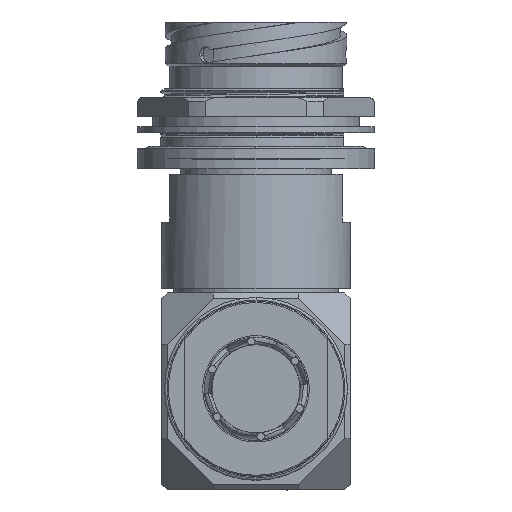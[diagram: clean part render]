
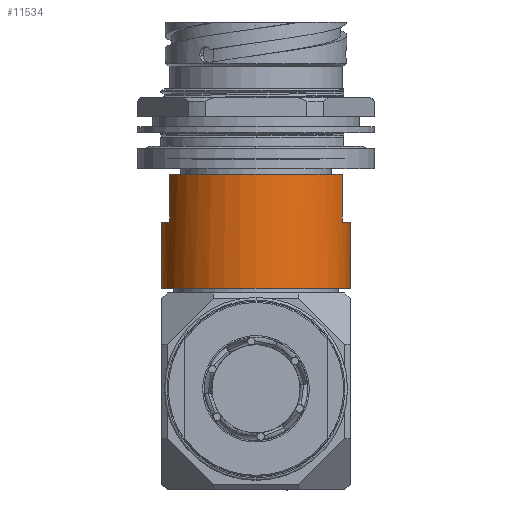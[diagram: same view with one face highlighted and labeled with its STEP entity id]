
A CAD part, front view. The second image highlights one B-rep face of the part: STEP entity #11534.
In plain terms, the highlighted cylindrical face has radius 18.86 mm (diameter 37.719 mm), a partial arc.
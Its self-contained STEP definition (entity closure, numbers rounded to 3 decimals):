
#1664 = VERTEX_POINT ( 'NONE', #127361 ) ;
#4003 = VERTEX_POINT ( 'NONE', #32517 ) ;
#4367 = VERTEX_POINT ( 'NONE', #120988 ) ;
#7084 = EDGE_CURVE ( 'NONE', #27457, #4367, #78304, .T. ) ;
#10281 = DIRECTION ( 'NONE',  ( 0., 0., -1. ) ) ;
#11534 = ADVANCED_FACE ( 'NONE', ( #73988 ), #62568, .T. ) ;
#13145 = VECTOR ( 'NONE', #42292, 1000. ) ;
#14009 = EDGE_CURVE ( 'NONE', #59226, #52883, #58438, .T. ) ;
#15745 = CIRCLE ( 'NONE', #80105, 18.86 ) ;
#23118 = EDGE_CURVE ( 'NONE', #59226, #128904, #29748, .T. ) ;
#24078 = ORIENTED_EDGE ( 'NONE', *, *, #23118, .F. ) ;
#27070 = AXIS2_PLACEMENT_3D ( 'NONE', #30951, #102858, #114258 ) ;
#27457 = VERTEX_POINT ( 'NONE', #49457 ) ;
#28289 = CARTESIAN_POINT ( 'NONE',  ( -17.208, -7.717, -30.328 ) ) ;
#29531 = LINE ( 'NONE', #128814, #70703 ) ;
#29748 = LINE ( 'NONE', #94026, #13145 ) ;
#30951 = CARTESIAN_POINT ( 'NONE',  ( 0., 0., -39.853 ) ) ;
#32517 = CARTESIAN_POINT ( 'NONE',  ( -18.86, 0., -39.853 ) ) ;
#35692 = DIRECTION ( 'NONE',  ( 0., 0., 1. ) ) ;
#37186 = ORIENTED_EDGE ( 'NONE', *, *, #14009, .T. ) ;
#37401 = EDGE_CURVE ( 'NONE', #128904, #27457, #15745, .T. ) ;
#39914 = CIRCLE ( 'NONE', #27070, 18.86 ) ;
#42191 = CARTESIAN_POINT ( 'NONE',  ( -17.209, -7.717, -39.853 ) ) ;
#42292 = DIRECTION ( 'NONE',  ( 0., 0., -1. ) ) ;
#47208 = ORIENTED_EDGE ( 'NONE', *, *, #71694, .F. ) ;
#49457 = CARTESIAN_POINT ( 'NONE',  ( 18.86, 0., -39.853 ) ) ;
#52870 = DIRECTION ( 'NONE',  ( 1., 0., 0. ) ) ;
#52883 = VERTEX_POINT ( 'NONE', #97867 ) ;
#55576 = DIRECTION ( 'NONE',  ( 0., 0., -1. ) ) ;
#56021 = ORIENTED_EDGE ( 'NONE', *, *, #63123, .F. ) ;
#58438 = CIRCLE ( 'NONE', #114246, 18.86 ) ;
#58790 = DIRECTION ( 'NONE',  ( 0., 0., -1. ) ) ;
#59226 = VERTEX_POINT ( 'NONE', #65825 ) ;
#60348 = CARTESIAN_POINT ( 'NONE',  ( 0., 0., -53.01 ) ) ;
#60998 = DIRECTION ( 'NONE',  ( 0., 0., -1. ) ) ;
#62568 = CYLINDRICAL_SURFACE ( 'NONE', #73473, 18.86 ) ;
#63123 = EDGE_CURVE ( 'NONE', #119255, #52883, #129095, .T. ) ;
#65689 = CIRCLE ( 'NONE', #112985, 18.86 ) ;
#65825 = CARTESIAN_POINT ( 'NONE',  ( 17.208, -7.717, -30.328 ) ) ;
#67714 = ORIENTED_EDGE ( 'NONE', *, *, #94228, .T. ) ;
#68599 = DIRECTION ( 'NONE',  ( 0., 0., 1. ) ) ;
#70703 = VECTOR ( 'NONE', #55576, 1000. ) ;
#71694 = EDGE_CURVE ( 'NONE', #4003, #119255, #39914, .T. ) ;
#73473 = AXIS2_PLACEMENT_3D ( 'NONE', #125724, #104237, #84066 ) ;
#73988 = FACE_OUTER_BOUND ( 'NONE', #115784, .T. ) ;
#74256 = EDGE_CURVE ( 'NONE', #4367, #1664, #65689, .T. ) ;
#75544 = ORIENTED_EDGE ( 'NONE', *, *, #37401, .F. ) ;
#78304 = LINE ( 'NONE', #109204, #79294 ) ;
#79294 = VECTOR ( 'NONE', #58790, 1000. ) ;
#79359 = CARTESIAN_POINT ( 'NONE',  ( 0., 0., -39.853 ) ) ;
#80105 = AXIS2_PLACEMENT_3D ( 'NONE', #79359, #68599, #108270 ) ;
#80116 = ORIENTED_EDGE ( 'NONE', *, *, #74256, .F. ) ;
#84066 = DIRECTION ( 'NONE',  ( 1., 0., 0. ) ) ;
#89216 = VECTOR ( 'NONE', #35692, 1000. ) ;
#92243 = CARTESIAN_POINT ( 'NONE',  ( 0., 0., -30.328 ) ) ;
#94026 = CARTESIAN_POINT ( 'NONE',  ( 17.208, -7.717, -30.328 ) ) ;
#94228 = EDGE_CURVE ( 'NONE', #4003, #1664, #29531, .T. ) ;
#96080 = ORIENTED_EDGE ( 'NONE', *, *, #7084, .F. ) ;
#97867 = CARTESIAN_POINT ( 'NONE',  ( -17.209, -7.717, -30.328 ) ) ;
#102334 = DIRECTION ( 'NONE',  ( 1., 0., 0. ) ) ;
#102858 = DIRECTION ( 'NONE',  ( 0., 0., 1. ) ) ;
#104237 = DIRECTION ( 'NONE',  ( 0., 0., -1. ) ) ;
#108270 = DIRECTION ( 'NONE',  ( 1., 0., 0. ) ) ;
#109204 = CARTESIAN_POINT ( 'NONE',  ( 18.859, 0., -30.328 ) ) ;
#109794 = CARTESIAN_POINT ( 'NONE',  ( 17.208, -7.717, -39.853 ) ) ;
#112985 = AXIS2_PLACEMENT_3D ( 'NONE', #60348, #60998, #52870 ) ;
#114246 = AXIS2_PLACEMENT_3D ( 'NONE', #92243, #10281, #102334 ) ;
#114258 = DIRECTION ( 'NONE',  ( 0., 1., 0. ) ) ;
#115784 = EDGE_LOOP ( 'NONE', ( #47208, #67714, #80116, #96080, #75544, #24078, #37186, #56021 ) ) ;
#119255 = VERTEX_POINT ( 'NONE', #42191 ) ;
#120988 = CARTESIAN_POINT ( 'NONE',  ( 18.86, 0., -53.01 ) ) ;
#125724 = CARTESIAN_POINT ( 'NONE',  ( 0., 0., -30.328 ) ) ;
#127361 = CARTESIAN_POINT ( 'NONE',  ( -18.86, 0., -53.01 ) ) ;
#128814 = CARTESIAN_POINT ( 'NONE',  ( -18.86, 0., -30.328 ) ) ;
#128904 = VERTEX_POINT ( 'NONE', #109794 ) ;
#129095 = LINE ( 'NONE', #28289, #89216 ) ;
